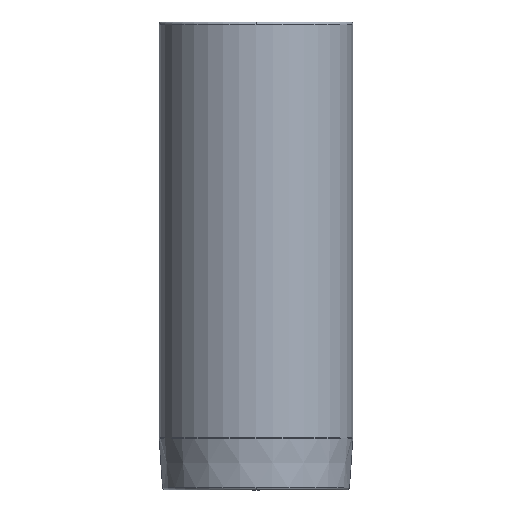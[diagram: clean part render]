
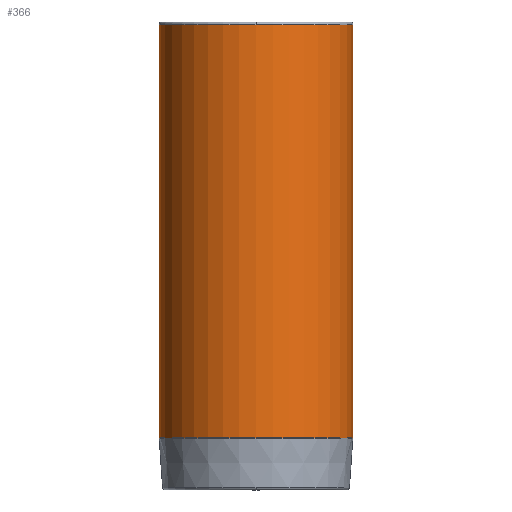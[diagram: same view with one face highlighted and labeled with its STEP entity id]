
A CAD part, front view. The second image highlights one B-rep face of the part: STEP entity #366.
In plain terms, the highlighted cylindrical face has radius 18.625 mm (diameter 37.25 mm), a partial arc.
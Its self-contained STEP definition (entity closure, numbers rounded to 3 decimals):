
#271=CARTESIAN_POINT('',(0.0,-18.625,46.5));
#272=VERTEX_POINT('',#271);
#298=CARTESIAN_POINT('',(-18.625,0.,46.5));
#299=VERTEX_POINT('',#298);
#307=CARTESIAN_POINT('',(0.0,0.,46.5));
#308=DIRECTION('',(0.0,0.0,1.0));
#309=DIRECTION('',(1.0,0.0,0.0));
#310=AXIS2_PLACEMENT_3D('',#307,#308,#309);
#311=CIRCLE('',#310,18.625);
#312=EDGE_CURVE('',#299,#272,#311,.T.);
#317=CARTESIAN_POINT('',(0.0,0.,6.767));
#318=DIRECTION('',(0.0,0.,1.0));
#319=DIRECTION('',(1.0,0.0,0.0));
#320=AXIS2_PLACEMENT_3D('',#317,#318,#319);
#321=CYLINDRICAL_SURFACE('',#320,18.625);
#322=CARTESIAN_POINT('',(18.625,0.,46.5));
#323=VERTEX_POINT('',#322);
#324=CARTESIAN_POINT('',(18.625,0.,-32.965));
#325=VERTEX_POINT('',#324);
#326=CARTESIAN_POINT('',(18.625,0.,46.5));
#327=DIRECTION('',(0.0,0.0,-1.0));
#328=VECTOR('',#327,79.465);
#329=LINE('',#326,#328);
#330=EDGE_CURVE('',#323,#325,#329,.T.);
#331=ORIENTED_EDGE('',*,*,#330,.F.);
#332=CARTESIAN_POINT('',(0.0,0.,46.5));
#333=DIRECTION('',(0.0,0.0,1.0));
#334=DIRECTION('',(1.0,0.0,0.0));
#335=AXIS2_PLACEMENT_3D('',#332,#333,#334);
#336=CIRCLE('',#335,18.625);
#337=EDGE_CURVE('',#272,#323,#336,.T.);
#338=ORIENTED_EDGE('',*,*,#337,.F.);
#339=ORIENTED_EDGE('',*,*,#312,.F.);
#340=CARTESIAN_POINT('',(-18.625,0.,-32.965));
#341=VERTEX_POINT('',#340);
#342=CARTESIAN_POINT('',(-18.625,0.,46.5));
#343=DIRECTION('',(0.0,0.0,-1.0));
#344=VECTOR('',#343,79.465);
#345=LINE('',#342,#344);
#346=EDGE_CURVE('',#299,#341,#345,.T.);
#347=ORIENTED_EDGE('',*,*,#346,.T.);
#348=CARTESIAN_POINT('',(0.0,-18.625,-32.965));
#349=VERTEX_POINT('',#348);
#350=CARTESIAN_POINT('',(0.0,0.,-32.965));
#351=DIRECTION('',(0.0,0.0,1.0));
#352=DIRECTION('',(1.0,0.0,0.0));
#353=AXIS2_PLACEMENT_3D('',#350,#351,#352);
#354=CIRCLE('',#353,18.625);
#355=EDGE_CURVE('',#341,#349,#354,.T.);
#356=ORIENTED_EDGE('',*,*,#355,.T.);
#357=CARTESIAN_POINT('',(0.0,0.,-32.965));
#358=DIRECTION('',(0.0,0.0,1.0));
#359=DIRECTION('',(1.0,0.0,0.0));
#360=AXIS2_PLACEMENT_3D('',#357,#358,#359);
#361=CIRCLE('',#360,18.625);
#362=EDGE_CURVE('',#349,#325,#361,.T.);
#363=ORIENTED_EDGE('',*,*,#362,.T.);
#364=EDGE_LOOP('',(#331,#338,#339,#347,#356,#363));
#365=FACE_OUTER_BOUND('',#364,.T.);
#366=ADVANCED_FACE('',(#365),#321,.T.);
